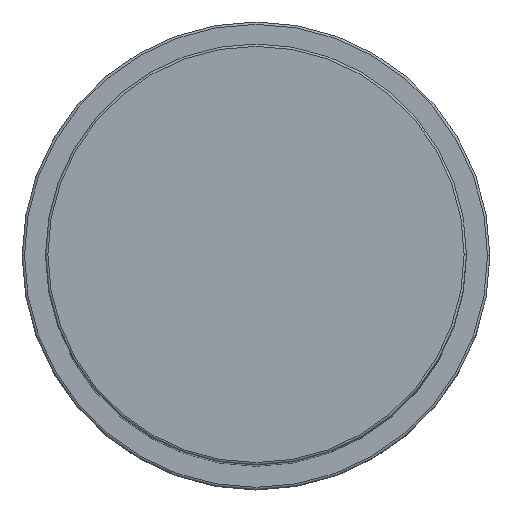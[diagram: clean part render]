
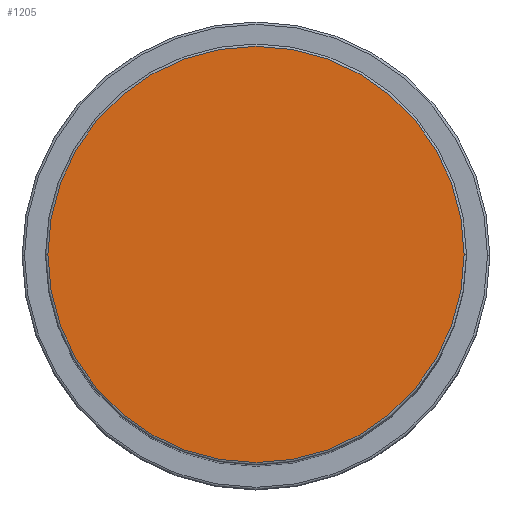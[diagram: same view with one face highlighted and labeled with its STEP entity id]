
A CAD part, top view. The second image highlights one B-rep face of the part: STEP entity #1205.
In plain terms, the highlighted planar face has unit normal (0, 0, 1).
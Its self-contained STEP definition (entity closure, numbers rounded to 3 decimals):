
#220 = DIRECTION ( 'NONE',  ( 1., 0., 0. ) ) ;
#416 = CIRCLE ( 'NONE', #863, 44.5 ) ;
#633 = CARTESIAN_POINT ( 'NONE',  ( 0., 0., 189. ) ) ;
#654 = EDGE_CURVE ( 'NONE', #965, #1387, #925, .T. ) ;
#679 = EDGE_LOOP ( 'NONE', ( #772, #930 ) ) ;
#681 = EDGE_CURVE ( 'NONE', #1387, #965, #416, .T. ) ;
#683 = CARTESIAN_POINT ( 'NONE',  ( 0., 0., 189. ) ) ;
#772 = ORIENTED_EDGE ( 'NONE', *, *, #681, .T. ) ;
#793 = AXIS2_PLACEMENT_3D ( 'NONE', #913, #1050, #220 ) ;
#863 = AXIS2_PLACEMENT_3D ( 'NONE', #633, #1341, #1629 ) ;
#913 = CARTESIAN_POINT ( 'NONE',  ( 0., 0., 189. ) ) ;
#925 = CIRCLE ( 'NONE', #793, 44.5 ) ;
#930 = ORIENTED_EDGE ( 'NONE', *, *, #654, .T. ) ;
#965 = VERTEX_POINT ( 'NONE', #1039 ) ;
#1003 = CARTESIAN_POINT ( 'NONE',  ( 44.5, 0., 189. ) ) ;
#1039 = CARTESIAN_POINT ( 'NONE',  ( -44.5, 0., 189. ) ) ;
#1050 = DIRECTION ( 'NONE',  ( 0., 0., 1. ) ) ;
#1205 = ADVANCED_FACE ( 'NONE', ( #1310 ), #1644, .T. ) ;
#1310 = FACE_OUTER_BOUND ( 'NONE', #679, .T. ) ;
#1341 = DIRECTION ( 'NONE',  ( 0., 0., 1. ) ) ;
#1362 = DIRECTION ( 'NONE',  ( 1., 0., 0. ) ) ;
#1387 = VERTEX_POINT ( 'NONE', #1003 ) ;
#1629 = DIRECTION ( 'NONE',  ( 1., 0., 0. ) ) ;
#1644 = PLANE ( 'NONE',  #1758 ) ;
#1758 = AXIS2_PLACEMENT_3D ( 'NONE', #683, #1792, #1362 ) ;
#1792 = DIRECTION ( 'NONE',  ( 0., 0., 1. ) ) ;
